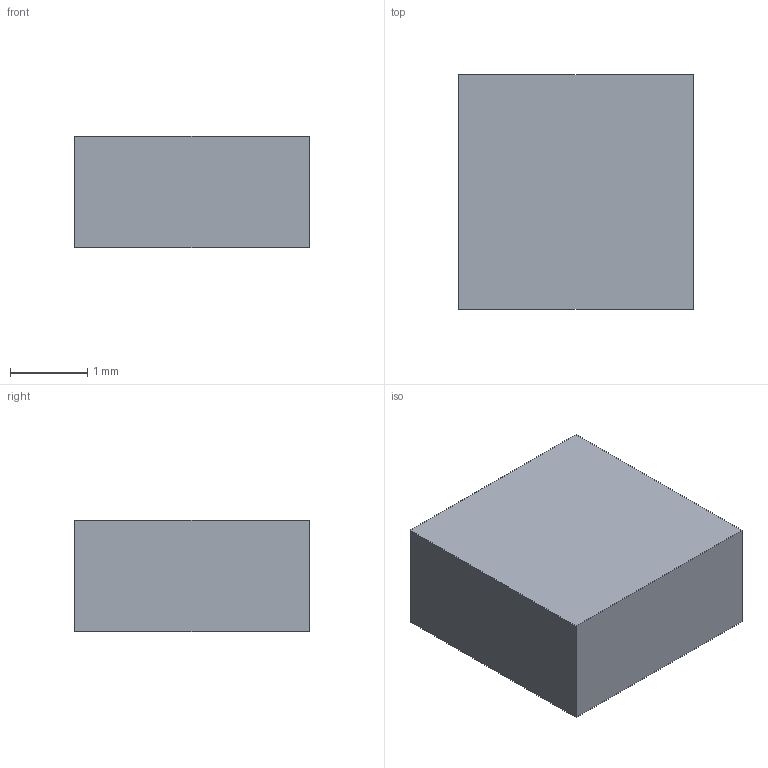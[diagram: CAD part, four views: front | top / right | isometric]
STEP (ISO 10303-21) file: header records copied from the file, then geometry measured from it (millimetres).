
FILE_DESCRIPTION(('Open CASCADE Model'),'2;1');
FILE_NAME('Open CASCADE Shape Model','2026-09-17T14:57:39',('Author'),( 'Open CASCADE'),'Open CASCADE STEP processor 7.8','Open CASCADE 7.8' ,'Unknown');
FILE_SCHEMA(('AUTOMOTIVE_DESIGN { 1 0 10303 214 1 1 1 1 }'));
Length unit declared in the file: millimetre
Products named in the file (1): Open CASCADE STEP translator 7.8 32
Bounding box: 3.04 x 3.04 x 1.45 mm (x, y, z)
Volume: 13.4 mm3; surface area: 36.1 mm2
Topology: 1 solids, 1 shells, 6 faces, 12 edges, 8 vertices
Faces by surface type: plane 6
Entity records: 322 total; most frequent: CARTESIAN_POINT 51, DIRECTION 50, LINE 36, VECTOR 36, ORIENTED_EDGE 24, PCURVE 24, DEFINITIONAL_REPRESENTATION 24, EDGE_CURVE 12
